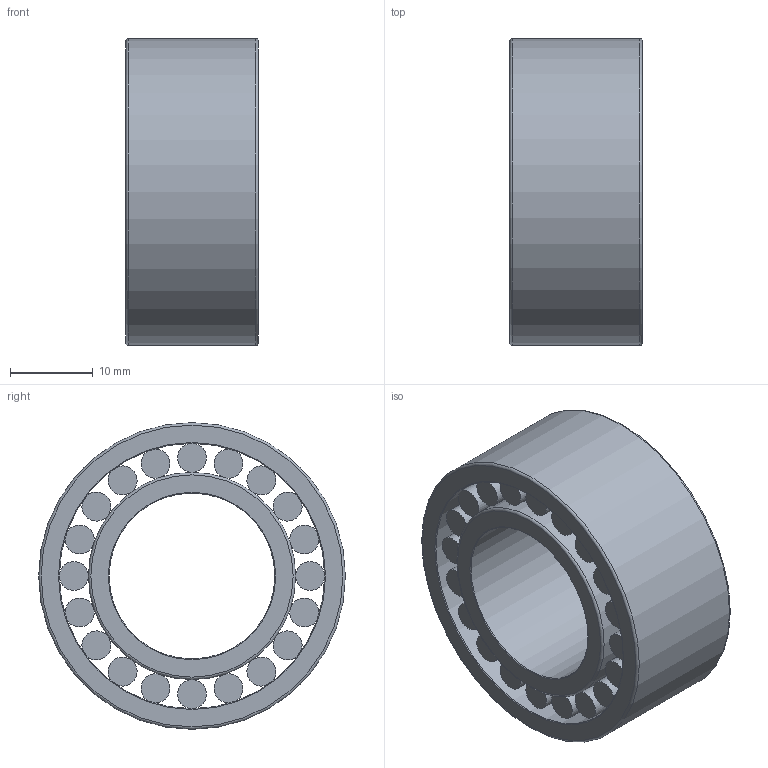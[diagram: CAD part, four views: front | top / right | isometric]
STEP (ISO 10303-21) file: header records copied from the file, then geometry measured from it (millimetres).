
FILE_DESCRIPTION(/* description */ (''),/* implementation_level */ '2;1');
FILE_NAME(/* name */ 'C:\Users\OUREHANEKD\Desktop\Ihlove loziska\NAO\NAO--\NAO 20x37x16.stp',/* time_stamp */ '2016-10-07T12:02:42+02:00',/* author */ ('OUREHANEKD'),/* organization */ (''),/* preprocessor_version */ 'ST-DEVELOPER v15.6',/* originating_system */ 'Autodesk Inventor 2015',/* authorisation */ '');
FILE_SCHEMA (('AUTOMOTIVE_DESIGN { 1 0 10303 214 3 1 1 }'));
Length unit declared in the file: millimetre
Products named in the file (4): NAO 20x37x16-01; NAO 20x37x16-02; NAO 20x37x16-ihla; NAO 20x37x16
Assembly tree (22 placements, depth 2):
  NAO 20x37x16
    NAO 20x37x16-01
    NAO 20x37x16-02
    NAO 20x37x16-ihla  x20
Bounding box: 16 x 37 x 37 mm (x, y, z)
Volume: 9771.6 mm3; surface area: 9936.9 mm2
Topology: 22 solids, 22 shells, 76 faces, 88 edges, 56 vertices
Faces by surface type: plane 44, cylinder 24, torus 8
Full cylindrical faces by diameter (mm): 3.5 x20, 20 x1, 25 x1, 32 x1, 37 x1
Entity records: 620 total; most frequent: DIRECTION 126, CARTESIAN_POINT 81, AXIS2_PLACEMENT_3D 63, EDGE_LOOP 36, ORIENTED_EDGE 36, PRODUCT_DEFINITION_SHAPE 26, ITEM_DEFINED_TRANSFORMATION 22, CONTEXT_DEPENDENT_SHAPE_REPRESENTATION 22
